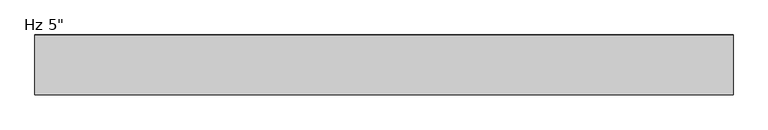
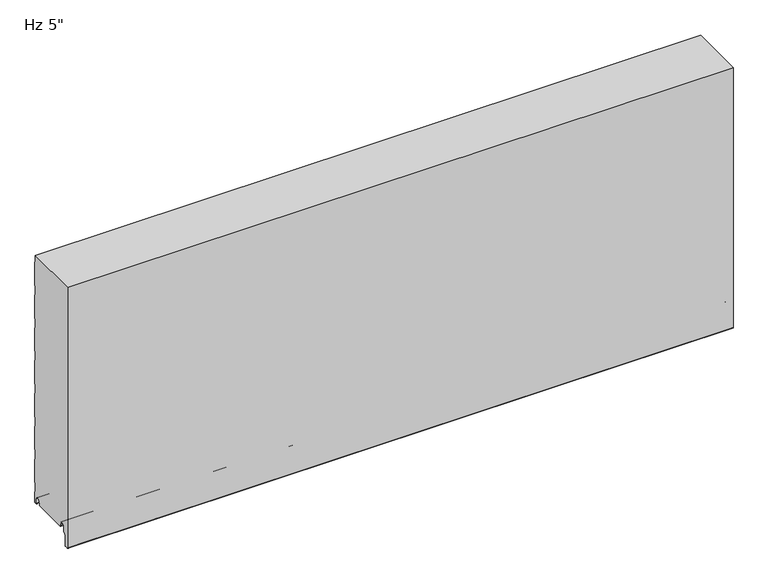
"""IFC4 building model written with IfcOpenShell, lengths in millimetres: plate geometry."""

from ifc_helpers import new_model, si_unit, frame, origin, place, context, project, spatial, polyline, circle_curve, source, transform, mapped, element, save
from ifc_brep_helpers import plane_surface, cylinder_surface, revolved_surface, advanced_brep


def plate_a3acba6d(model_context):
    return source(origin(), model_context, "Body", "AdvancedBrep", [
        advanced_brep(
        [(-730.0, -98.6708959, 1.0316999), (-730.0, -97.5014212, 2.2328239), (-730.0, -97.5014212, 5.9912173), (-730.0, -98.8999001, 5.9912173), (-730.0, -98.8999001, 8.6903283), (-730.0, -102.2498954, 12.0403236), (-730.0, -106.6498866, 12.0403236), (-730.0, -109.9998819, 8.6903283), (-730.0, -109.9998819, -3.1205608), (-730.0, -110.4977988, -4.3226385), (-730.0, -115.9998699, -9.8247096), (-730.0, -115.9998699, -31.9198392), (-730.0, -118.2184719, -34.5765709), (-730.0, -123.2002927, -35.0125699), (-730.0, -125.9946177, -32.4521176), (-730.0, -126.0000209, 571.2), (-730.0, -2.2002516, 571.2), (-730.0, -2.2002516, 555.8186019), (-730.0, -1.0000209, 554.4329689), (-730.0, -1.0000209, 500.3795535), (-730.0, -2.2002516, 498.9939206), (-730.0, -2.2002516, 479.6187543), (-730.0, -1.0000209, 478.2331213), (-730.0, -1.0000209, 424.1797059), (-730.0, -2.2002516, 422.794073), (-730.0, -2.2002516, 403.4189067), (-730.0, -1.0000209, 402.0332737), (-730.0, -1.0000209, 347.9798583), (-730.0, -2.2002516, 346.5942254), (-730.0, -2.2002516, 327.2190591), (-730.0, -1.0000209, 325.8334261), (-730.0, -1.0000209, 271.7800107), (-730.0, -2.2002516, 270.3943778), (-730.0, -2.2002516, 251.0192115), (-730.0, -1.0000209, 249.6335785), (-730.0, -1.0000209, 195.5801631), (-730.0, -2.2002516, 194.1945302), (-730.0, -2.2002516, 174.8193639), (-730.0, -1.0000209, 173.4337309), (-730.0, -1.0000209, 119.3803155), (-730.0, -2.2002516, 117.9946826), (-730.0, -2.2002516, 98.6195163), (-730.0, -1.0000209, 97.2338833), (-730.0, -1.0000209, 43.1804679), (-730.0, -2.2002516, 41.794835), (-730.0, -2.2002516, 22.4196687), (-730.0, -1.0000126, 21.034026), (-730.0, -1.0000126, -3.4662506), (-730.0, -5.2315599, -3.4662506), (-730.0, -7.001554, -1.6962564), (-730.0, -7.001554, 8.7237222), (-730.0, -10.3015499, 12.023718), (-730.0, -14.7015411, 12.023718), (-730.0, -18.0015368, 8.7237223), (-730.0, -18.0015368, 6.0315125), (-730.0, -19.0015314, 6.0315125), (-730.0, -19.0015314, 2.0313089), (-730.0, -18.0015401, 1.0313117), (-730.0, -19.0328517, 0.0), (-730.0, -97.639196, 0.0), (730.0, -98.6708959, 1.0316999), (730.0, -97.639196, 0.0), (730.0, -19.0328517, 0.0), (730.0, -18.0015401, 1.0313117), (730.0, -19.0015314, 2.0313089), (730.0, -19.0015314, 6.0315125), (730.0, -18.0015368, 6.0315125), (730.0, -18.0015368, 8.7237223), (730.0, -14.7015411, 12.023718), (730.0, -10.3015499, 12.023718), (730.0, -7.001554, 8.7237222), (730.0, -7.001554, -1.6962564), (730.0, -5.2315599, -3.4662506), (730.0, -1.0000126, -3.4662506), (730.0, -1.0000126, 21.034026), (730.0, -2.2002516, 22.4196687), (730.0, -2.2002516, 41.794835), (730.0, -1.0000209, 43.1804679), (730.0, -1.0000209, 97.2338833), (730.0, -2.2002516, 98.6195163), (730.0, -2.2002516, 117.9946826), (730.0, -1.0000209, 119.3803155), (730.0, -1.0000209, 173.4337309), (730.0, -2.2002516, 174.8193639), (730.0, -2.2002516, 194.1945302), (730.0, -1.0000209, 195.5801631), (730.0, -1.0000209, 249.6335785), (730.0, -2.2002516, 251.0192115), (730.0, -2.2002516, 270.3943778), (730.0, -1.0000209, 271.7800107), (730.0, -1.0000209, 325.8334261), (730.0, -2.2002516, 327.2190591), (730.0, -2.2002516, 346.5942254), (730.0, -1.0000209, 347.9798583), (730.0, -1.0000209, 402.0332737), (730.0, -2.2002516, 403.4189067), (730.0, -2.2002516, 422.794073), (730.0, -1.0000209, 424.1797059), (730.0, -1.0000209, 478.2331213), (730.0, -2.2002516, 479.6187543), (730.0, -2.2002516, 498.9939206), (730.0, -1.0000209, 500.3795535), (730.0, -1.0000209, 554.4329689), (730.0, -2.2002516, 555.8186019), (730.0, -2.2002516, 571.2), (730.0, -126.0000209, 571.2), (730.0, -126.0000209, -32.4521176), (730.0, -123.2002927, -35.0125699), (730.0, -118.2184719, -34.5765709), (730.0, -115.9998699, -31.9198392), (730.0, -115.9998699, -9.8247096), (730.0, -110.4977988, -4.3226385), (730.0, -109.9998819, -3.1205608), (730.0, -109.9998819, 8.6903283), (730.0, -106.6498866, 12.0403236), (730.0, -102.2498954, 12.0403236), (730.0, -98.8999001, 8.6903283), (730.0, -98.8999001, 5.9912173), (730.0, -97.5014212, 5.9912173), (730.0, -97.5014212, 2.2328239)],
        [
            (0, 1, circle_curve(frame((-730.0, -98.7014178, 2.2313092), z_axis=(1.0, 0.0, 0.0), x_axis=(0.0, 0.0, -1.0)), 1.1999976)),
            (1, 2),
            (2, 3),
            (3, 4),
            (4, 5, circle_curve(frame((-730.0, -102.2498954, 8.6903283), z_axis=(1.0, 0.0, 0.0), x_axis=(0.0, 0.0, -1.0)), 3.3499953)),
            (5, 6),
            (6, 7, circle_curve(frame((-730.0, -106.6498866, 8.6903283), z_axis=(1.0, 0.0, 0.0), x_axis=(0.0, 0.0, -1.0)), 3.3499953)),
            (7, 8),
            (8, 9, circle_curve(frame((-730.0, -111.6998765, -3.1205608), z_axis=(-1.0, 0.0, 0.0), x_axis=(0.0, 0.0, -1.0)), 1.6999946)),
            (9, 10),
            (10, 11),
            (11, 12, circle_curve(frame((-730.0, -118.6998625, -31.9198392), z_axis=(-1.0, 0.0, 0.0), x_axis=(0.0, 0.0, -1.0)), 2.6999926)),
            (12, 13),
            (13, 14, circle_curve(frame((-730.0, -123.4243784, -32.4521176), z_axis=(-1.0, 0.0, 0.0), x_axis=(0.0, 0.0, -1.0)), 2.5702393)),
            (14, 15),
            (15, 16),
            (16, 17),
            (17, 18),
            (18, 19),
            (19, 20),
            (20, 21),
            (21, 22),
            (22, 23),
            (23, 24),
            (24, 25),
            (25, 26),
            (26, 27),
            (27, 28),
            (28, 29),
            (29, 30),
            (30, 31),
            (31, 32),
            (32, 33),
            (33, 34),
            (34, 35),
            (35, 36),
            (36, 37),
            (37, 38),
            (38, 39),
            (39, 40),
            (40, 41),
            (41, 42),
            (42, 43),
            (43, 44),
            (44, 45),
            (45, 46),
            (46, 47),
            (47, 48),
            (48, 49, circle_curve(frame((-730.0, -5.2315599, -1.6962564), z_axis=(-1.0, 0.0, 0.0), x_axis=(0.0, 0.0, 1.0)), 1.7699942)),
            (49, 50),
            (50, 51, circle_curve(frame((-730.0, -10.3015499, 8.7237222), z_axis=(1.0, 0.0, 0.0), x_axis=(0.0, 0.0, 1.0)), 3.2999959)),
            (51, 52),
            (52, 53, circle_curve(frame((-730.0, -14.7015411, 8.7237223), z_axis=(1.0, 0.0, 0.0), x_axis=(0.0, 0.0, 1.0)), 3.2999957)),
            (53, 54),
            (54, 55),
            (55, 56),
            (56, 57, circle_curve(frame((-730.0, -18.0015342, 2.0313089), z_axis=(1.0, 0.0, 0.0), x_axis=(0.0, 0.0, 1.0)), 0.9999972)),
            (57, 58),
            (58, 59),
            (59, 0),
            (60, 61),
            (61, 62),
            (62, 63),
            (63, 64, circle_curve(frame((730.0, -18.0015342, 2.0313089), z_axis=(-1.0, 0.0, 0.0), x_axis=(0.0, 0.0, 1.0)), 0.9999972)),
            (64, 65),
            (65, 66),
            (66, 67),
            (67, 68, circle_curve(frame((730.0, -14.7015411, 8.7237223), z_axis=(-1.0, 0.0, 0.0), x_axis=(0.0, 0.0, 1.0)), 3.2999957)),
            (68, 69),
            (69, 70, circle_curve(frame((730.0, -10.3015499, 8.7237222), z_axis=(-1.0, 0.0, 0.0), x_axis=(0.0, 0.0, 1.0)), 3.2999959)),
            (70, 71),
            (71, 72, circle_curve(frame((730.0, -5.2315599, -1.6962564), z_axis=(1.0, 0.0, 0.0), x_axis=(0.0, 0.0, 1.0)), 1.7699942)),
            (72, 73),
            (73, 74),
            (74, 75),
            (75, 76),
            (76, 77),
            (77, 78),
            (78, 79),
            (79, 80),
            (80, 81),
            (81, 82),
            (82, 83),
            (83, 84),
            (84, 85),
            (85, 86),
            (86, 87),
            (87, 88),
            (88, 89),
            (89, 90),
            (90, 91),
            (91, 92),
            (92, 93),
            (93, 94),
            (94, 95),
            (95, 96),
            (96, 97),
            (97, 98),
            (98, 99),
            (99, 100),
            (100, 101),
            (101, 102),
            (102, 103),
            (103, 104),
            (104, 105),
            (105, 106),
            (106, 107, circle_curve(frame((730.0, -123.4243784, -32.4521176), z_axis=(1.0, 0.0, 0.0), x_axis=(0.0, 0.0, -1.0)), 2.5702393)),
            (107, 108),
            (108, 109, circle_curve(frame((730.0, -118.6998625, -31.9198392), z_axis=(1.0, 0.0, 0.0), x_axis=(0.0, 0.0, -1.0)), 2.6999926)),
            (109, 110),
            (110, 111),
            (111, 112, circle_curve(frame((730.0, -111.6998765, -3.1205608), z_axis=(1.0, 0.0, 0.0), x_axis=(0.0, 0.0, -1.0)), 1.6999946)),
            (112, 113),
            (113, 114, circle_curve(frame((730.0, -106.6498866, 8.6903283), z_axis=(-1.0, 0.0, 0.0), x_axis=(0.0, 0.0, -1.0)), 3.3499953)),
            (114, 115),
            (115, 116, circle_curve(frame((730.0, -102.2498954, 8.6903283), z_axis=(-1.0, 0.0, 0.0), x_axis=(0.0, 0.0, -1.0)), 3.3499953)),
            (116, 117),
            (117, 118),
            (118, 119),
            (119, 60, circle_curve(frame((730.0, -98.7014178, 2.2313092), z_axis=(-1.0, 0.0, 0.0), x_axis=(0.0, 0.0, -1.0)), 1.1999976)),
            (59, 61),
            (60, 0),
            (58, 62),
            (105, 15),
            (14, 106),
            (13, 107),
            (12, 108),
            (11, 109),
            (10, 110),
            (9, 111),
            (8, 112),
            (7, 113),
            (6, 114),
            (5, 115),
            (4, 116),
            (3, 117),
            (2, 118),
            (1, 119),
            (104, 16),
            (57, 63),
            (56, 64),
            (55, 65),
            (54, 66),
            (53, 67),
            (52, 68),
            (51, 69),
            (50, 70),
            (49, 71),
            (48, 72),
            (47, 73),
            (46, 74),
            (45, 75),
            (44, 76),
            (43, 77),
            (42, 78),
            (41, 79),
            (40, 80),
            (39, 81),
            (38, 82),
            (37, 83),
            (36, 84),
            (35, 85),
            (34, 86),
            (33, 87),
            (32, 88),
            (31, 89),
            (30, 90),
            (29, 91),
            (28, 92),
            (27, 93),
            (26, 94),
            (25, 95),
            (24, 96),
            (23, 97),
            (22, 98),
            (21, 99),
            (20, 100),
            (19, 101),
            (18, 102),
            (17, 103),
        ],
        [
            plane_surface(frame((-730.0, -126.0000209, 457.2), z_axis=(-1.0, 0.0, 0.0), x_axis=(0.0, -1.0, 0.0))),
            plane_surface(frame((730.0, -126.0000209, 457.2), z_axis=(1.0, 0.0, 0.0), x_axis=(0.0, -1.0, 0.0))),
            plane_surface(frame((-730.0, -98.6708959, 1.0316999), z_axis=(0.0, -0.7071067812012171, -0.707106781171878), x_axis=(1.0, 0.0, 0.0))),
            plane_surface(frame((-730.0, -97.639196, 0.0), z_axis=(0.0, 0.0, -1.0), x_axis=(1.0, 0.0, 0.0))),
            plane_surface(frame((-730.0, -126.0000209, 865.915622), z_axis=(0.0, -1.0, 0.0), x_axis=(1.0, 0.0, 0.0))),
            cylinder_surface(frame((-730.0, -123.4243784, -32.4521176), z_axis=(-1.0, 0.0, 0.0), x_axis=(0.0, 0.0, -1.0)), 2.5702393),
            plane_surface(frame((-730.0, -123.2002927, -35.0125699), z_axis=(0.0, 0.08718474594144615, -0.9961921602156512), x_axis=(1.0, 0.0, 0.0))),
            cylinder_surface(frame((-730.0, -118.6998625, -31.9198392), z_axis=(-1.0, 0.0, 0.0), x_axis=(0.0, 0.0, -1.0)), 2.6999926),
            plane_surface(frame((-730.0, -115.9998699, -31.9198392), z_axis=(0.0, 1.0, 0.0), x_axis=(1.0, 0.0, 0.0))),
            plane_surface(frame((-730.0, -115.9998699, -9.8247096), z_axis=(0.0, 0.7071067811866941, -0.707106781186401), x_axis=(1.0, 0.0, 0.0))),
            cylinder_surface(frame((-730.0, -111.6998765, -3.1205608), z_axis=(-1.0, 0.0, 0.0), x_axis=(0.0, 0.0, -1.0)), 1.6999946),
            plane_surface(frame((-730.0, -109.9998819, -3.1205608), z_axis=(0.0, 1.0, 0.0), x_axis=(1.0, 0.0, 0.0))),
            revolved_surface(polyline([(730.0, -106.6498866, 5.340332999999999), (-730.0, -106.6498866, 5.340332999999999)]), (-730.0, -106.6498866, 8.6903283), (1.0, 0.0, 0.0)),
            plane_surface(frame((-730.0, -106.6498866, 12.0403236), z_axis=(0.0, 0.0, -1.0), x_axis=(1.0, 0.0, 0.0))),
            revolved_surface(polyline([(730.0, -102.2498954, 5.340332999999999), (-730.0, -102.2498954, 5.340332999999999)]), (-730.0, -102.2498954, 8.6903283), (1.0, 0.0, 0.0)),
            plane_surface(frame((-730.0, -98.8999001, 8.6903283), z_axis=(0.0, -1.0, 0.0), x_axis=(1.0, 0.0, 0.0))),
            plane_surface(frame((-730.0, -98.8999001, 5.9912173), z_axis=(0.0, 0.0, -1.0), x_axis=(1.0, 0.0, 0.0))),
            plane_surface(frame((-730.0, -97.5014212, 5.9912173), z_axis=(0.0, -1.0, 0.0), x_axis=(1.0, 0.0, 0.0))),
            revolved_surface(polyline([(730.0, -98.7014178, 1.0313116), (-730.0, -98.7014178, 1.0313116)]), (-730.0, -98.7014178, 2.2313092), (1.0, 0.0, 0.0)),
            plane_surface(frame((730.0, 9.9999791, 571.2), z_axis=(0.0, 0.0, 1.0), x_axis=(-1.0, 0.0, 0.0))),
            plane_surface(frame((-730.0, -19.0328517, 0.0), z_axis=(0.0, 0.7071067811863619, -0.7071067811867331), x_axis=(1.0, 0.0, 0.0))),
            revolved_surface(polyline([(730.0, -18.0015342, 3.0313061), (-730.0, -18.0015342, 3.0313061)]), (-730.0, -18.0015342, 2.0313089), (1.0, 0.0, 0.0)),
            plane_surface(frame((-730.0, -19.0015314, 2.0313089), z_axis=(0.0, 1.0, 0.0), x_axis=(1.0, 0.0, 0.0))),
            plane_surface(frame((-730.0, -19.0015314, 6.0315125), z_axis=(0.0, 0.0, -1.0), x_axis=(1.0, 0.0, 0.0))),
            plane_surface(frame((-730.0, -18.0015368, 6.0315125), z_axis=(0.0, 1.0, 0.0), x_axis=(1.0, 0.0, 0.0))),
            revolved_surface(polyline([(730.0, -14.7015411, 12.023718), (-730.0, -14.7015411, 12.023718)]), (-730.0, -14.7015411, 8.7237223), (1.0, 0.0, 0.0)),
            plane_surface(frame((-730.0, -14.7015411, 12.023718), z_axis=(0.0, 0.0, -1.0), x_axis=(1.0, 0.0, 0.0))),
            revolved_surface(polyline([(730.0, -10.3015499, 12.0237181), (-730.0, -10.3015499, 12.0237181)]), (-730.0, -10.3015499, 8.7237222), (1.0, 0.0, 0.0)),
            plane_surface(frame((-730.0, -7.001554, 8.7237222), z_axis=(0.0, -1.0, 0.0), x_axis=(1.0, 0.0, 0.0))),
            cylinder_surface(frame((-730.0, -5.2315599, -1.6962564), z_axis=(-1.0, 0.0, 0.0), x_axis=(0.0, 0.0, 1.0)), 1.7699942),
            plane_surface(frame((-730.0, -5.2315599, -3.4662506), z_axis=(0.0, 0.0, -1.0), x_axis=(1.0, 0.0, 0.0))),
            plane_surface(frame((-730.0, -1.0000126, -3.4662506), z_axis=(0.0, 1.0, 0.0), x_axis=(1.0, 0.0, 0.0))),
            plane_surface(frame((-730.0, -1.0000126, 21.034026), z_axis=(0.0, 0.7558648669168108, 0.6547276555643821), x_axis=(1.0, 0.0, 0.0))),
            plane_surface(frame((-730.0, -2.2002516, 22.4196687), z_axis=(0.0, 1.0, 0.0), x_axis=(1.0, 0.0, 0.0))),
            plane_surface(frame((-730.0, -2.2002516, 41.794835), z_axis=(0.0, 0.7558648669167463, -0.6547276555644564), x_axis=(1.0, 0.0, 0.0))),
            plane_surface(frame((-730.0, -1.0000209, 43.1804679), z_axis=(0.0, 1.0, 0.0), x_axis=(1.0, 0.0, 0.0))),
            plane_surface(frame((-730.0, -1.0000209, 97.2338833), z_axis=(0.0, 0.7558648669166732, 0.6547276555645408), x_axis=(1.0, 0.0, 0.0))),
            plane_surface(frame((-730.0, -2.2002516, 98.6195163), z_axis=(0.0, 1.0, 0.0), x_axis=(1.0, 0.0, 0.0))),
            plane_surface(frame((-730.0, -2.2002516, 117.9946826), z_axis=(0.0, 0.7558648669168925, -0.6547276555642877), x_axis=(1.0, 0.0, 0.0))),
            plane_surface(frame((-730.0, -1.0000209, 119.3803155), z_axis=(0.0, 1.0, 0.0), x_axis=(1.0, 0.0, 0.0))),
            plane_surface(frame((-730.0, -1.0000209, 173.4337309), z_axis=(0.0, 0.7558648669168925, 0.6547276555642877), x_axis=(1.0, 0.0, 0.0))),
            plane_surface(frame((-730.0, -2.2002516, 174.8193639), z_axis=(0.0, 1.0, 0.0), x_axis=(1.0, 0.0, 0.0))),
            plane_surface(frame((-730.0, -2.2002516, 194.1945302), z_axis=(0.0, 0.7558648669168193, -0.6547276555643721), x_axis=(1.0, 0.0, 0.0))),
            plane_surface(frame((-730.0, -1.0000209, 195.5801631), z_axis=(0.0, 1.0, 0.0), x_axis=(1.0, 0.0, 0.0))),
            plane_surface(frame((-730.0, -1.0000209, 249.6335785), z_axis=(0.0, 0.7558648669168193, 0.6547276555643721), x_axis=(1.0, 0.0, 0.0))),
            plane_surface(frame((-730.0, -2.2002516, 251.0192115), z_axis=(0.0, 1.0, 0.0), x_axis=(1.0, 0.0, 0.0))),
            plane_surface(frame((-730.0, -2.2002516, 270.3943778), z_axis=(0.0, 0.7558648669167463, -0.6547276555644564), x_axis=(1.0, 0.0, 0.0))),
            plane_surface(frame((-730.0, -1.0000209, 271.7800107), z_axis=(0.0, 1.0, 0.0), x_axis=(1.0, 0.0, 0.0))),
            plane_surface(frame((-730.0, -1.0000209, 325.8334261), z_axis=(0.0, 0.7558648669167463, 0.6547276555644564), x_axis=(1.0, 0.0, 0.0))),
            plane_surface(frame((-730.0, -2.2002516, 327.2190591), z_axis=(0.0, 1.0, 0.0), x_axis=(1.0, 0.0, 0.0))),
            plane_surface(frame((-730.0, -2.2002516, 346.5942254), z_axis=(0.0, 0.7558648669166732, -0.6547276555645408), x_axis=(1.0, 0.0, 0.0))),
            plane_surface(frame((-730.0, -1.0000209, 347.9798583), z_axis=(0.0, 1.0, 0.0), x_axis=(1.0, 0.0, 0.0))),
            plane_surface(frame((-730.0, -1.0000209, 402.0332737), z_axis=(0.0, 0.7558648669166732, 0.6547276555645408), x_axis=(1.0, 0.0, 0.0))),
            plane_surface(frame((-730.0, -2.2002516, 403.4189067), z_axis=(0.0, 1.0, 0.0), x_axis=(1.0, 0.0, 0.0))),
            plane_surface(frame((-730.0, -2.2002516, 422.794073), z_axis=(0.0, 0.755864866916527, -0.6547276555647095), x_axis=(1.0, 0.0, 0.0))),
            plane_surface(frame((-730.0, -1.0000209, 424.1797059), z_axis=(0.0, 1.0, 0.0), x_axis=(1.0, 0.0, 0.0))),
            plane_surface(frame((-730.0, -1.0000209, 478.2331213), z_axis=(0.0, 0.755864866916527, 0.6547276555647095), x_axis=(1.0, 0.0, 0.0))),
            plane_surface(frame((-730.0, -2.2002516, 479.6187543), z_axis=(0.0, 1.0, 0.0), x_axis=(1.0, 0.0, 0.0))),
            plane_surface(frame((-730.0, -2.2002516, 498.9939206), z_axis=(0.0, 0.755864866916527, -0.6547276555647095), x_axis=(1.0, 0.0, 0.0))),
            plane_surface(frame((-730.0, -1.0000209, 500.3795535), z_axis=(0.0, 1.0, 0.0), x_axis=(1.0, 0.0, 0.0))),
            plane_surface(frame((-730.0, -1.0000209, 554.4329689), z_axis=(0.0, 0.755864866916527, 0.6547276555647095), x_axis=(1.0, 0.0, 0.0))),
            plane_surface(frame((-730.0, -2.2002516, 555.8186019), z_axis=(0.0, 1.0, 0.0), x_axis=(1.0, 0.0, 0.0))),
        ],
        [
            (0, [[1, 2, 3, 4, 5, 6, 7, 8, 9, 10, 11, 12, 13, 14, 15, 16, 17, 18, 19, 20, 21, 22, 23, 24, 25, 26, 27, 28, 29, 30, 31, 32, 33, 34, 35, 36, 37, 38, 39, 40, 41, 42, 43, 44, 45, 46, 47, 48, 49, 50, 51, 52, 53, 54, 55, 56, 57, 58, 59, 60]]),
            (1, [[61, 62, 63, 64, 65, 66, 67, 68, 69, 70, 71, 72, 73, 74, 75, 76, 77, 78, 79, 80, 81, 82, 83, 84, 85, 86, 87, 88, 89, 90, 91, 92, 93, 94, 95, 96, 97, 98, 99, 100, 101, 102, 103, 104, 105, 106, 107, 108, 109, 110, 111, 112, 113, 114, 115, 116, 117, 118, 119, 120]]),
            (2, [[121, -61, 122, -60]]),
            (3, [[-59, 123, -62, -121]]),
            (4, [[-106, 124, -15, 125]]),
            (5, [[126, -107, -125, -14]]),
            (6, [[127, -108, -126, -13]]),
            (7, [[128, -109, -127, -12]]),
            (8, [[129, -110, -128, -11]]),
            (9, [[130, -111, -129, -10]]),
            (10, [[131, -112, -130, -9]]),
            (11, [[132, -113, -131, -8]]),
            (12, [[133, -114, -132, -7]]),
            (13, [[134, -115, -133, -6]]),
            (14, [[135, -116, -134, -5]]),
            (15, [[136, -117, -135, -4]]),
            (16, [[137, -118, -136, -3]]),
            (17, [[138, -119, -137, -2]]),
            (18, [[-122, -120, -138, -1]]),
            (19, [[-124, -105, 139, -16]]),
            (20, [[140, -63, -123, -58]]),
            (21, [[141, -64, -140, -57]]),
            (22, [[142, -65, -141, -56]]),
            (23, [[143, -66, -142, -55]]),
            (24, [[144, -67, -143, -54]]),
            (25, [[145, -68, -144, -53]]),
            (26, [[146, -69, -145, -52]]),
            (27, [[147, -70, -146, -51]]),
            (28, [[148, -71, -147, -50]]),
            (29, [[149, -72, -148, -49]]),
            (30, [[150, -73, -149, -48]]),
            (31, [[151, -74, -150, -47]]),
            (32, [[152, -75, -151, -46]]),
            (33, [[153, -76, -152, -45]]),
            (34, [[154, -77, -153, -44]]),
            (35, [[155, -78, -154, -43]]),
            (36, [[156, -79, -155, -42]]),
            (37, [[157, -80, -156, -41]]),
            (38, [[158, -81, -157, -40]]),
            (39, [[159, -82, -158, -39]]),
            (40, [[160, -83, -159, -38]]),
            (41, [[161, -84, -160, -37]]),
            (42, [[162, -85, -161, -36]]),
            (43, [[163, -86, -162, -35]]),
            (44, [[164, -87, -163, -34]]),
            (45, [[165, -88, -164, -33]]),
            (46, [[166, -89, -165, -32]]),
            (47, [[167, -90, -166, -31]]),
            (48, [[168, -91, -167, -30]]),
            (49, [[169, -92, -168, -29]]),
            (50, [[170, -93, -169, -28]]),
            (51, [[171, -94, -170, -27]]),
            (52, [[172, -95, -171, -26]]),
            (53, [[173, -96, -172, -25]]),
            (54, [[174, -97, -173, -24]]),
            (55, [[175, -98, -174, -23]]),
            (56, [[176, -99, -175, -22]]),
            (57, [[177, -100, -176, -21]]),
            (58, [[178, -101, -177, -20]]),
            (59, [[179, -102, -178, -19]]),
            (60, [[180, -103, -179, -18]]),
            (61, [[-17, -139, -104, -180]]),
        ],
    ),
    ])


if __name__ == "__main__":
    model = new_model("IFC4")
    model_context = context("Model", 3, world=origin())
    ifc_project = project(units=[si_unit("LENGTHUNIT", "METRE", prefix="MILLI")], contexts=[model_context])
    site = spatial("IfcSite", under=ifc_project)
    building = spatial("IfcBuilding", under=site)
    placement = place(None, origin())
    plate_shape = plate_a3acba6d(model_context)
    element("IfcPlate", 1, ObjectType="KIP-36-Karrier-KP-R19-CP-Hz-FL3-8in_SL : Hz 5\"", at=placement, inside=building, context=model_context, shape_type="MappedRepresentation", body=[
        mapped(plate_shape, transform((0.0, 0.0, 0.0), x_axis=(1.0, 0.0, 0.0), y_axis=(0.0, 1.0, 0.0), z_axis=(0.0, 0.0, 1.0))),
    ])
    save(model, "model.ifc")
